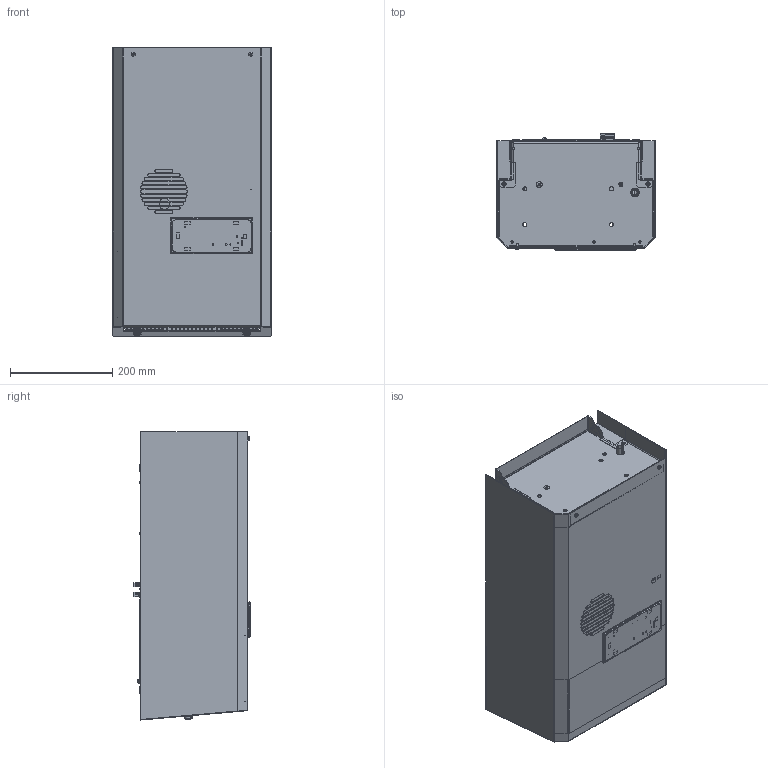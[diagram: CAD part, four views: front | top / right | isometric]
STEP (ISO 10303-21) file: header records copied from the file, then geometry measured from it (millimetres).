
FILE_DESCRIPTION (( 'STEP AP203' ), '1' );
FILE_NAME ('DTS 9031.STEP', '2007-12-05T07:16:33', ( 'Pfannenberg' ), ( 'Pfannenberg GmbH' ), 'SwSTEP 2.0', 'SolidWorks 2007', '' );
FILE_SCHEMA (( 'CONFIG_CONTROL_DESIGN' ));
Products named in the file (1): DTS 9031
Bounding box: 310 x 227.78 x 563.88 mm (x, y, z)
Volume: 1353879.5 mm3; surface area: 2189988.2 mm2
Topology: 82 solids, 82 shells, 3123 faces, 8148 edges, 5225 vertices
Faces by surface type: plane 1873, cylinder 858, sphere 186, cone 102, bspline 72, torus 32
Entity records: 98259 total; most frequent: CARTESIAN_POINT 20262, DIRECTION 16129, ORIENTED_EDGE 15966, EDGE_CURVE 7983, AXIS2_PLACEMENT_3D 5425, VECTOR 5279, LINE 5279, VERTEX_POINT 5138
